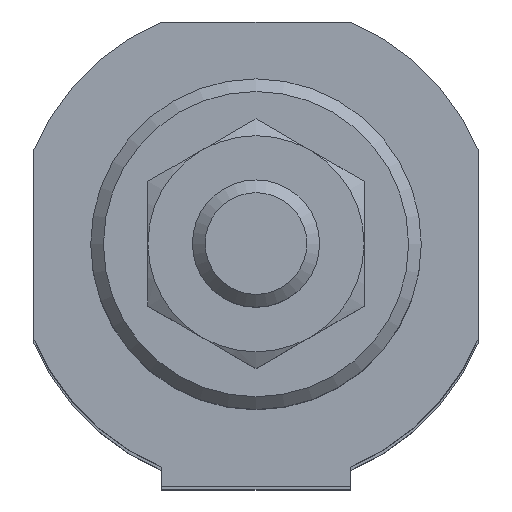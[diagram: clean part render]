
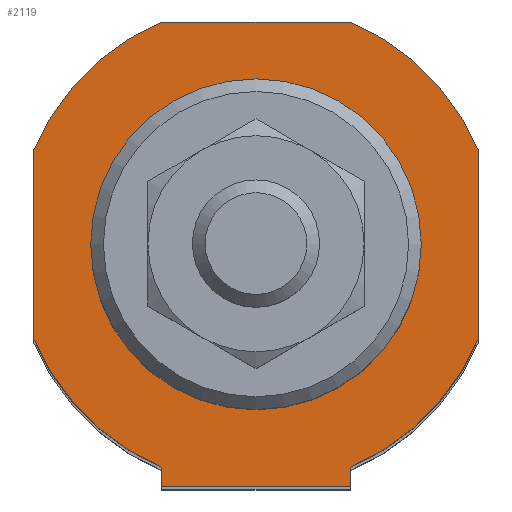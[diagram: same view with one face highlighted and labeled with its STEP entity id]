
A CAD part, top view. The second image highlights one B-rep face of the part: STEP entity #2119.
In plain terms, the highlighted planar face has unit normal (0, 0, 1).
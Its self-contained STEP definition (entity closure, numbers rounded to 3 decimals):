
#1123=CARTESIAN_POINT('',(7.399,-19.0,198.0));
#1124=VERTEX_POINT('',#1123);
#1125=CARTESIAN_POINT('',(-7.399,-19.0,198.));
#1126=VERTEX_POINT('',#1125);
#1127=CARTESIAN_POINT('',(7.399,-19.0,198.0));
#1128=DIRECTION('',(-1.0,0.0,0.0));
#1129=VECTOR('',#1128,14.799);
#1130=LINE('',#1127,#1129);
#1131=EDGE_CURVE('',#1124,#1126,#1130,.T.);
#1545=CARTESIAN_POINT('',(-7.399,-17.5,198.));
#1546=VERTEX_POINT('',#1545);
#1560=CARTESIAN_POINT('',(-7.399,-17.5,198.));
#1561=DIRECTION('',(0.0,-1.0,0.0));
#1562=VECTOR('',#1561,1.5);
#1563=LINE('',#1560,#1562);
#1564=EDGE_CURVE('',#1546,#1126,#1563,.T.);
#1576=CARTESIAN_POINT('',(7.399,-17.5,198.0));
#1577=VERTEX_POINT('',#1576);
#1584=CARTESIAN_POINT('',(7.399,-17.5,198.0));
#1585=DIRECTION('',(0.0,-1.0,0.0));
#1586=VECTOR('',#1585,1.5);
#1587=LINE('',#1584,#1586);
#1588=EDGE_CURVE('',#1577,#1124,#1587,.T.);
#1801=CARTESIAN_POINT('',(13.0,0.,198.));
#1802=VERTEX_POINT('',#1801);
#1803=CARTESIAN_POINT('',(0.,0.,198.));
#1804=DIRECTION('',(0.0,0.0,-1.0));
#1805=DIRECTION('',(-1.0,0.0,0.0));
#1806=AXIS2_PLACEMENT_3D('',#1803,#1804,#1805);
#1807=CIRCLE('',#1806,13.0);
#1808=EDGE_CURVE('',#1802,#1802,#1807,.T.);
#2013=CARTESIAN_POINT('',(-17.5,-7.399,198.));
#2014=VERTEX_POINT('',#2013);
#2015=CARTESIAN_POINT('',(-17.5,7.399,198.));
#2016=VERTEX_POINT('',#2015);
#2017=CARTESIAN_POINT('',(-17.5,-7.399,198.));
#2018=DIRECTION('',(0.0,1.0,0.0));
#2019=VECTOR('',#2018,14.799);
#2020=LINE('',#2017,#2019);
#2021=EDGE_CURVE('',#2014,#2016,#2020,.T.);
#2045=CARTESIAN_POINT('',(-7.399,17.5,198.));
#2046=VERTEX_POINT('',#2045);
#2047=CARTESIAN_POINT('',(0.0,0.0,198.));
#2048=DIRECTION('',(0.0,0.0,-1.0));
#2049=DIRECTION('',(-0.389,0.921,0.0));
#2050=AXIS2_PLACEMENT_3D('',#2047,#2048,#2049);
#2051=CIRCLE('',#2050,19.0);
#2052=EDGE_CURVE('',#2016,#2046,#2051,.T.);
#2065=CARTESIAN_POINT('',(-11.374,11.374,198.));
#2066=DIRECTION('',(0.0,0.0,1.0));
#2067=DIRECTION('',(1.0,0.0,0.0));
#2068=AXIS2_PLACEMENT_3D('',#2065,#2066,#2067);
#2069=PLANE('',#2068);
#2070=CARTESIAN_POINT('',(7.399,17.5,198.));
#2071=VERTEX_POINT('',#2070);
#2072=CARTESIAN_POINT('',(-7.399,17.5,198.));
#2073=DIRECTION('',(1.0,0.0,0.0));
#2074=VECTOR('',#2073,14.799);
#2075=LINE('',#2072,#2074);
#2076=EDGE_CURVE('',#2046,#2071,#2075,.T.);
#2077=ORIENTED_EDGE('',*,*,#2076,.F.);
#2078=ORIENTED_EDGE('',*,*,#2052,.F.);
#2079=ORIENTED_EDGE('',*,*,#2021,.F.);
#2080=CARTESIAN_POINT('',(0.0,0.0,198.));
#2081=DIRECTION('',(0.0,0.0,-1.0));
#2082=DIRECTION('',(-0.921,-0.389,0.0));
#2083=AXIS2_PLACEMENT_3D('',#2080,#2081,#2082);
#2084=CIRCLE('',#2083,19.0);
#2085=EDGE_CURVE('',#1546,#2014,#2084,.T.);
#2086=ORIENTED_EDGE('',*,*,#2085,.F.);
#2087=ORIENTED_EDGE('',*,*,#1564,.T.);
#2088=ORIENTED_EDGE('',*,*,#1131,.F.);
#2089=ORIENTED_EDGE('',*,*,#1588,.F.);
#2090=CARTESIAN_POINT('',(17.5,-7.399,198.0));
#2091=VERTEX_POINT('',#2090);
#2092=CARTESIAN_POINT('',(0.0,0.0,198.));
#2093=DIRECTION('',(0.0,0.0,-1.0));
#2094=DIRECTION('',(0.389,-0.921,0.0));
#2095=AXIS2_PLACEMENT_3D('',#2092,#2093,#2094);
#2096=CIRCLE('',#2095,19.0);
#2097=EDGE_CURVE('',#2091,#1577,#2096,.T.);
#2098=ORIENTED_EDGE('',*,*,#2097,.F.);
#2099=CARTESIAN_POINT('',(17.5,7.399,198.));
#2100=VERTEX_POINT('',#2099);
#2101=CARTESIAN_POINT('',(17.5,7.399,198.));
#2102=DIRECTION('',(0.0,-1.0,0.0));
#2103=VECTOR('',#2102,14.799);
#2104=LINE('',#2101,#2103);
#2105=EDGE_CURVE('',#2100,#2091,#2104,.T.);
#2106=ORIENTED_EDGE('',*,*,#2105,.F.);
#2107=CARTESIAN_POINT('',(0.0,0.0,198.));
#2108=DIRECTION('',(0.0,0.0,-1.0));
#2109=DIRECTION('',(0.921,0.389,0.0));
#2110=AXIS2_PLACEMENT_3D('',#2107,#2108,#2109);
#2111=CIRCLE('',#2110,19.0);
#2112=EDGE_CURVE('',#2071,#2100,#2111,.T.);
#2113=ORIENTED_EDGE('',*,*,#2112,.F.);
#2114=EDGE_LOOP('',(#2077,#2078,#2079,#2086,#2087,#2088,#2089,#2098,#2106,#2113));
#2115=FACE_OUTER_BOUND('',#2114,.T.);
#2116=ORIENTED_EDGE('',*,*,#1808,.T.);
#2117=EDGE_LOOP('',(#2116));
#2118=FACE_BOUND('',#2117,.T.);
#2119=ADVANCED_FACE('',(#2115,#2118),#2069,.T.);
